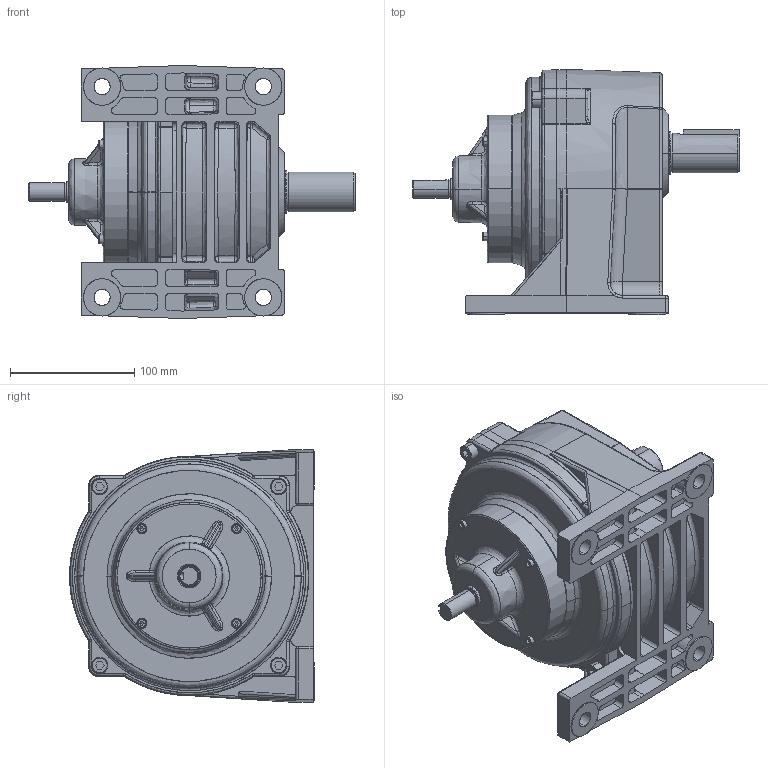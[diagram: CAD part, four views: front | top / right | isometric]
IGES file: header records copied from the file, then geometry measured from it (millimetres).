
Start section: SolidWorks IGES file using analytic representation for surfaces
Bounding box: 263 x 197.5 x 204 mm (x, y, z)
Surface area: 305483.4 mm2 (no closed solid volume)
Topology: 0 solids, 0 shells, 824 faces, 9958 edges, 9943 vertices
Faces by surface type: bspline 487, revolution 337
